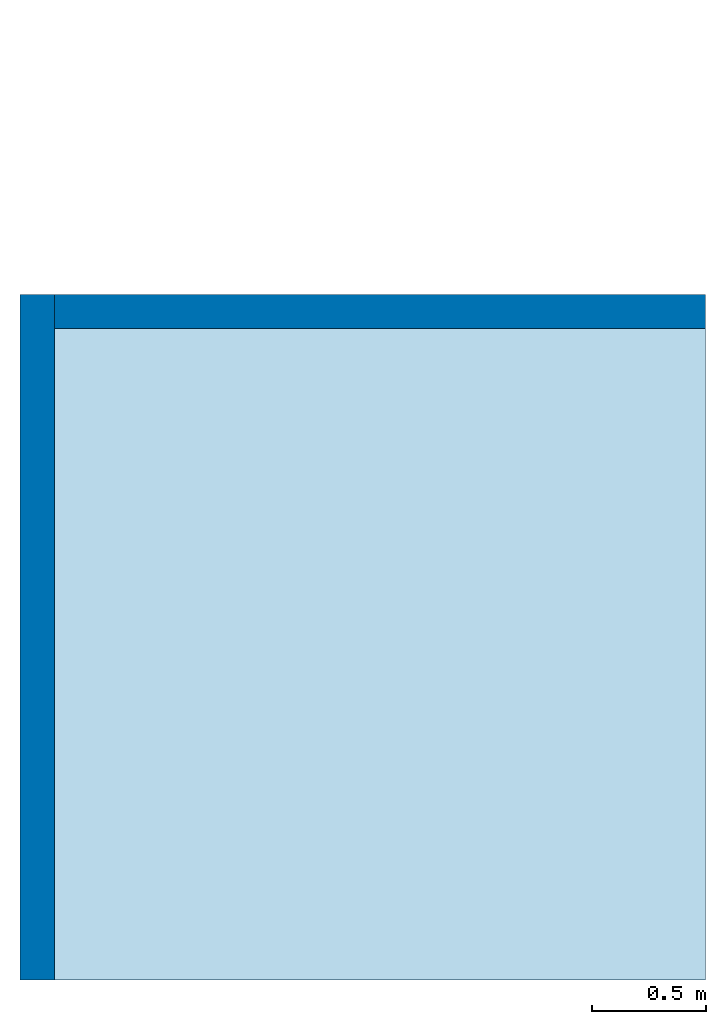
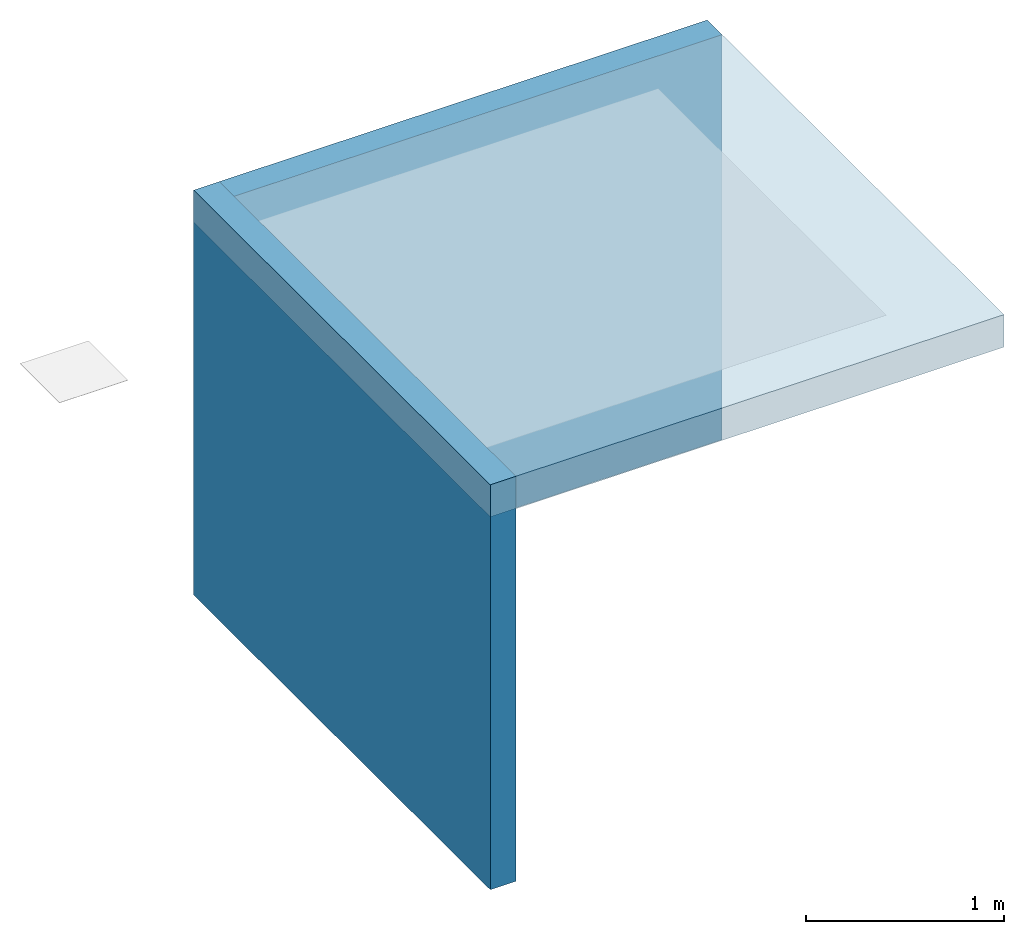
# One storey, part 1 of 3: 2 walls, 1 slab.
"""IFC2X3 building model written with IfcOpenShell, lengths in metres."""

from ifc_helpers import new_model, entity, si_unit, converted_unit, derived_unit, direction, frame, frame_2d, origin, origin_2d_with_axis, place, context, subcontext, project, spatial, rectangle, extrude, material, layer, layer_set, layer_usage, type_object, element, save


model = new_model("IFC2X3")

# Units and contexts
model_context = context("Model", 3, precision=1e-05, world=origin(), true_north=direction((6.123031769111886e-17, 1.0)))
body_context = subcontext(model_context, "Body", "Model", "MODEL_VIEW")
ifc_project = project(units=[si_unit("LENGTHUNIT", "METRE"), si_unit("AREAUNIT", "SQUARE_METRE"), si_unit("VOLUMEUNIT", "CUBIC_METRE"), converted_unit("PLANEANGLEUNIT", "DEGREE", entity("IfcRatioMeasure", 0.017453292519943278), si_unit("PLANEANGLEUNIT", "RADIAN"), dimensions=[0, 0, 0, 0, 0, 0, 0]), si_unit("MASSUNIT", "GRAM", prefix="KILO"), derived_unit("MASSDENSITYUNIT", [(si_unit("MASSUNIT", "GRAM", prefix="KILO"), 1), (si_unit("LENGTHUNIT", "METRE"), -3)]), derived_unit("IONCONCENTRATIONUNIT", [(si_unit("MASSUNIT", "GRAM", prefix="KILO"), 1), (si_unit("LENGTHUNIT", "METRE"), -3)]), derived_unit("MOMENTOFINERTIAUNIT", [(si_unit("LENGTHUNIT", "METRE"), 4)]), si_unit("TIMEUNIT", "SECOND"), si_unit("FREQUENCYUNIT", "HERTZ"), si_unit("THERMODYNAMICTEMPERATUREUNIT", "DEGREE_CELSIUS"), derived_unit("THERMALTRANSMITTANCEUNIT", [(si_unit("MASSUNIT", "GRAM", prefix="KILO"), 1), (si_unit("THERMODYNAMICTEMPERATUREUNIT", "KELVIN"), -1), (si_unit("TIMEUNIT", "SECOND"), -3)]), derived_unit("THERMALCONDUCTANCEUNIT", [(si_unit("MASSUNIT", "GRAM", prefix="KILO"), 1), (si_unit("THERMODYNAMICTEMPERATUREUNIT", "KELVIN"), -1), (si_unit("TIMEUNIT", "SECOND"), -3), (si_unit("LENGTHUNIT", "METRE"), 1)]), derived_unit("VOLUMETRICFLOWRATEUNIT", [(si_unit("LENGTHUNIT", "METRE"), 3), (si_unit("TIMEUNIT", "SECOND"), -1)]), derived_unit("MASSFLOWRATEUNIT", [(si_unit("MASSUNIT", "GRAM", prefix="KILO"), 1), (si_unit("TIMEUNIT", "SECOND"), -1)]), derived_unit("ROTATIONALFREQUENCYUNIT", [(si_unit("TIMEUNIT", "SECOND"), -1)]), si_unit("ELECTRICCURRENTUNIT", "AMPERE"), si_unit("ELECTRICVOLTAGEUNIT", "VOLT"), si_unit("POWERUNIT", "WATT"), si_unit("FORCEUNIT", "NEWTON", prefix="KILO"), si_unit("ILLUMINANCEUNIT", "LUX"), si_unit("LUMINOUSFLUXUNIT", "LUMEN"), si_unit("LUMINOUSINTENSITYUNIT", "CANDELA"), derived_unit("USERDEFINED", [(si_unit("MASSUNIT", "GRAM", prefix="KILO"), -1), (si_unit("LENGTHUNIT", "METRE"), -2), (si_unit("TIMEUNIT", "SECOND"), 3), (si_unit("LUMINOUSFLUXUNIT", "LUMEN"), 1)]), derived_unit("USERDEFINED", [(si_unit("MASSUNIT", "GRAM", prefix="KILO"), 1), (si_unit("TIMEUNIT", "SECOND"), -3), (si_unit("LENGTHUNIT", "METRE"), 3), (si_unit("ELECTRICCURRENTUNIT", "AMPERE"), -2)]), derived_unit("SOUNDPOWERUNIT", [(si_unit("MASSUNIT", "GRAM", prefix="KILO"), 1), (si_unit("TIMEUNIT", "SECOND"), -3), (si_unit("LENGTHUNIT", "METRE"), 2)]), derived_unit("SOUNDPRESSUREUNIT", [(si_unit("MASSUNIT", "GRAM", prefix="KILO"), 1), (si_unit("LENGTHUNIT", "METRE"), -1), (si_unit("TIMEUNIT", "SECOND"), -2)]), derived_unit("LINEARVELOCITYUNIT", [(si_unit("LENGTHUNIT", "METRE"), 1), (si_unit("TIMEUNIT", "SECOND"), -1)]), si_unit("PRESSUREUNIT", "PASCAL"), derived_unit("USERDEFINED", [(si_unit("MASSUNIT", "GRAM", prefix="KILO"), 1), (si_unit("LENGTHUNIT", "METRE"), -2), (si_unit("TIMEUNIT", "SECOND"), -2)]), derived_unit("LINEARFORCEUNIT", [(si_unit("MASSUNIT", "GRAM", prefix="KILO"), 1), (si_unit("TIMEUNIT", "SECOND"), -2)]), derived_unit("PLANARFORCEUNIT", [(si_unit("MASSUNIT", "GRAM", prefix="KILO"), 1), (si_unit("LENGTHUNIT", "METRE"), -1), (si_unit("TIMEUNIT", "SECOND"), -2)]), derived_unit("SPECIFICHEATCAPACITYUNIT", [(si_unit("THERMODYNAMICTEMPERATUREUNIT", "KELVIN"), -1), (si_unit("LENGTHUNIT", "METRE"), 2), (si_unit("TIMEUNIT", "SECOND"), -2)]), derived_unit("HEATINGVALUEUNIT", [(si_unit("LENGTHUNIT", "METRE"), 2), (si_unit("TIMEUNIT", "SECOND"), -2)]), derived_unit("VAPORPERMEABILITYUNIT", [(si_unit("LENGTHUNIT", "METRE"), -1), (si_unit("TIMEUNIT", "SECOND"), 1)]), derived_unit("DYNAMICVISCOSITYUNIT", [(si_unit("MASSUNIT", "GRAM", prefix="KILO"), 1), (si_unit("TIMEUNIT", "SECOND"), -1), (si_unit("LENGTHUNIT", "METRE"), -1)]), derived_unit("THERMALEXPANSIONCOEFFICIENTUNIT", [(si_unit("THERMODYNAMICTEMPERATUREUNIT", "KELVIN"), -1)]), derived_unit("MODULUSOFELASTICITYUNIT", [(si_unit("MASSUNIT", "GRAM", prefix="KILO"), 1), (si_unit("LENGTHUNIT", "METRE"), -1), (si_unit("TIMEUNIT", "SECOND"), -2)]), derived_unit("ISOTHERMALMOISTURECAPACITYUNIT", [(si_unit("LENGTHUNIT", "METRE"), 3), (si_unit("MASSUNIT", "GRAM", prefix="KILO"), -1)]), derived_unit("MOISTUREDIFFUSIVITYUNIT", [(si_unit("TIMEUNIT", "SECOND"), -1), (si_unit("LENGTHUNIT", "METRE"), 2)])], contexts=[model_context])

# Site, building, storey
site_placement = place(None, origin())
site = spatial("IfcSite", under=ifc_project, at=site_placement, Name="Default", CompositionType="ELEMENT")
building_placement = place(site_placement, origin())
building = spatial("IfcBuilding", under=site, at=building_placement, CompositionType="ELEMENT")
storey_placement = place(building_placement, frame((0.0, 0.0, -0.0025237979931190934)))
storey = spatial("IfcBuildingStorey", under=building, at=storey_placement, Name="ARQ Térreo", CompositionType="ELEMENT", Elevation=-0.0025237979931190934)

# Slab
ifc_material = material(Name="#concreto")
ifc_layer_1 = layer(ifc_material, 0.2)
ifc_layer_set_1 = layer_set([ifc_layer_1], Name="Piso:Piso:LAJE CONCRETO")
ifc_layer_usage_1 = layer_usage(ifc_layer_set_1, "AXIS3", "POSITIVE", 0.0)
slab_type = type_object("IfcSlabType", Name="Piso:Piso:LAJE CONCRETO", PredefinedType="FLOOR", material=ifc_layer_set_1)
slab_placement = place(storey_placement, origin())
element("IfcSlab", 1, at=slab_placement, inside=storey, type_object=slab_type, material=ifc_layer_usage_1, Name="Piso:Piso:LAJE CONCRETO", ObjectType="Piso:Piso:LAJE CONCRETO", PredefinedType="FLOOR", context=body_context, shape_type="SweptSolid", body=[
    extrude(rectangle(XDim=3.0000000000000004, YDim=3.0000000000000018, at=origin_2d_with_axis()), frame((0.9980295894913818, -1.354129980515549, 2.4999999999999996), z_axis=(0.0, 0.0, -1.0), x_axis=(0.0, 1.0, 0.0)), (0.0, 0.0, 1.0), 0.2),
])

# Walls
ifc_layer_2 = layer(ifc_material, 0.14999999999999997)
ifc_layer_set_2 = layer_set([ifc_layer_2], Name="Parede básica:Parede básica:Parede Concreto")
ifc_layer_usage_2 = layer_usage(ifc_layer_set_2, "AXIS2", "NEGATIVE", 0.07499999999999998)
wall_type = type_object("IfcWallType", Name="Parede básica:Parede básica:Parede Concreto", PredefinedType="STANDARD", material=ifc_layer_set_2)
wall_1_placement = place(storey_placement, frame((-0.4269704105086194, 0.14587001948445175, 0.0), z_axis=(0.0, 0.0, 1.0), x_axis=(0.0, -1.0, 0.0)))
element("IfcWallStandardCase", 2, at=wall_1_placement, inside=storey, type_object=wall_type, material=ifc_layer_usage_2, Name="Parede básica:Parede Concreto", ObjectType="Parede básica:Parede Concreto", context=body_context, shape_type="SweptSolid", body=[
    extrude(rectangle(XDim=3.000000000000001, YDim=0.15000000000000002, at=frame_2d((1.5000000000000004, 0.0), x_axis=(-1.0, 0.0))), origin(), (0.0, 0.0, 1.0), 2.4999999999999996),
])
wall_2_placement = place(storey_placement, frame((2.4980295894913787, 0.07087001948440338, 0.0), z_axis=(0.0, 0.0, 1.0), x_axis=(-1.0, 0.0, 0.0)))
element("IfcWallStandardCase", 3, at=wall_2_placement, inside=storey, type_object=wall_type, material=ifc_layer_usage_2, Name="Parede básica:Parede Concreto", ObjectType="Parede básica:Parede Concreto", context=body_context, shape_type="SweptSolid", body=[
    extrude(rectangle(XDim=2.8499999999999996, YDim=0.14999999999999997, at=frame_2d((1.4249999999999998, 6.938893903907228e-18), x_axis=(-1.0, 0.0))), origin(), (0.0, 0.0, 1.0), 2.4999999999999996),
])

save(model, "model.ifc")
